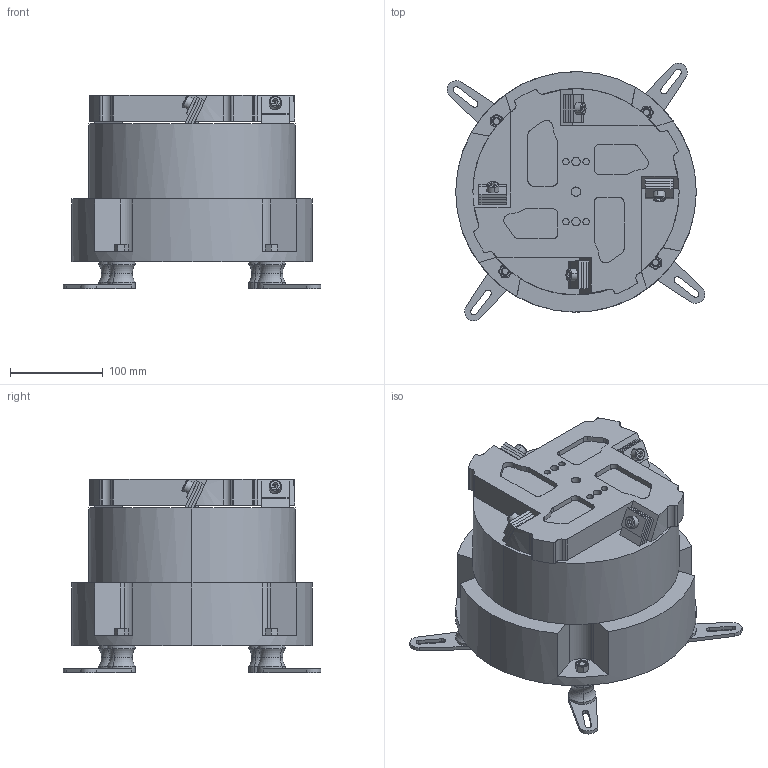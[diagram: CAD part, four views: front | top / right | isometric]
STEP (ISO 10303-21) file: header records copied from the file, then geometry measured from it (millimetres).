
FILE_DESCRIPTION(/* description */ (''),/* implementation_level */ '2;1');
FILE_NAME(/* name */ 'DF250.stp',/* time_stamp */ '2022-04-15T10:36:42+08:00',/* author */ (''),/* organization */ (''),/* preprocessor_version */ 'ST-DEVELOPER v18.102',/* originating_system */ 'SIEMENS PLM Software NX 2019',/* authorisation */ '');
FILE_SCHEMA (('AUTOMOTIVE_DESIGN { 1 0 10303 214 3 1 1 1 }'));
Length unit declared in the file: millimetre
Products named in the file (1): DF250_stp_objects
Bounding box: 278.38 x 278.38 x 209 mm (x, y, z)
Volume: 6966152.3 mm3; surface area: 425597.4 mm2
Topology: 30 solids, 30 shells, 598 faces, 1418 edges, 903 vertices
Faces by surface type: plane 291, cylinder 223, cone 60, torus 24
Entity records: 18233 total; most frequent: CARTESIAN_POINT 3940, DIRECTION 2856, ORIENTED_EDGE 2820, EDGE_CURVE 1410, AXIS2_PLACEMENT_3D 1047, VERTEX_POINT 903, LINE 762, VECTOR 762
